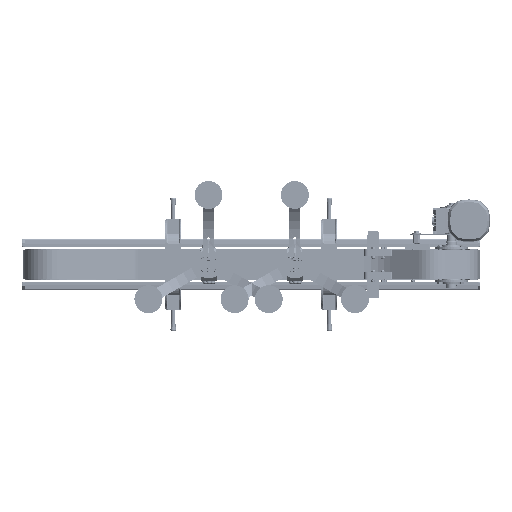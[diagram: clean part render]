
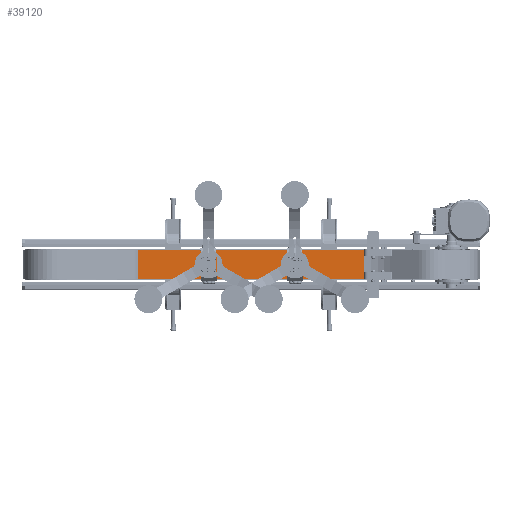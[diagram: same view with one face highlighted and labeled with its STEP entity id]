
A CAD part, front view. The second image highlights one B-rep face of the part: STEP entity #39120.
In plain terms, the highlighted planar face has unit normal (0, -1, 0).
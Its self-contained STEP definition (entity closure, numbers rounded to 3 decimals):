
#233 = CARTESIAN_POINT ( 'NONE',  ( -41.25, -105.8, 0. ) ) ;
#12181 = LINE ( 'NONE', #115090, #105316 ) ;
#19758 = VECTOR ( 'NONE', #141295, 1000. ) ;
#22676 = DIRECTION ( 'NONE',  ( 0., 0., 1. ) ) ;
#23629 = EDGE_CURVE ( 'NONE', #60865, #109645, #98230, .T. ) ;
#25879 = EDGE_CURVE ( 'NONE', #50776, #96678, #119277, .T. ) ;
#29406 = EDGE_CURVE ( 'NONE', #109645, #96678, #12181, .T. ) ;
#34805 = ORIENTED_EDGE ( 'NONE', *, *, #25879, .T. ) ;
#37091 = DIRECTION ( 'NONE',  ( 1., 0., 0. ) ) ;
#38650 = AXIS2_PLACEMENT_3D ( 'NONE', #105309, #39799, #39008 ) ;
#39008 = DIRECTION ( 'NONE',  ( 0., 0., -1. ) ) ;
#39120 = ADVANCED_FACE ( 'NONE', ( #91224 ), #130158, .T. ) ;
#39799 = DIRECTION ( 'NONE',  ( 0., -1., 0. ) ) ;
#50776 = VERTEX_POINT ( 'NONE', #81393 ) ;
#51232 = EDGE_LOOP ( 'NONE', ( #34805, #99177, #76691, #140412 ) ) ;
#60865 = VERTEX_POINT ( 'NONE', #80774 ) ;
#65073 = CARTESIAN_POINT ( 'NONE',  ( 41.25, -105.8, 0. ) ) ;
#76466 = CARTESIAN_POINT ( 'NONE',  ( 41.25, -105.8, 647. ) ) ;
#76691 = ORIENTED_EDGE ( 'NONE', *, *, #23629, .F. ) ;
#77752 = VECTOR ( 'NONE', #118476, 1000. ) ;
#80774 = CARTESIAN_POINT ( 'NONE',  ( -41.25, -105.8, 0. ) ) ;
#81393 = CARTESIAN_POINT ( 'NONE',  ( 41.25, -105.8, 0. ) ) ;
#81963 = CARTESIAN_POINT ( 'NONE',  ( 41.25, -105.8, 0. ) ) ;
#91224 = FACE_OUTER_BOUND ( 'NONE', #51232, .T. ) ;
#96678 = VERTEX_POINT ( 'NONE', #76466 ) ;
#98230 = LINE ( 'NONE', #233, #135901 ) ;
#99177 = ORIENTED_EDGE ( 'NONE', *, *, #29406, .F. ) ;
#105309 = CARTESIAN_POINT ( 'NONE',  ( 41.25, -105.8, 0. ) ) ;
#105316 = VECTOR ( 'NONE', #37091, 1000. ) ;
#109645 = VERTEX_POINT ( 'NONE', #159961 ) ;
#115090 = CARTESIAN_POINT ( 'NONE',  ( 41.25, -105.8, 647. ) ) ;
#118476 = DIRECTION ( 'NONE',  ( 0., 0., 1. ) ) ;
#119277 = LINE ( 'NONE', #81963, #77752 ) ;
#130158 = PLANE ( 'NONE',  #38650 ) ;
#135901 = VECTOR ( 'NONE', #22676, 1000. ) ;
#140412 = ORIENTED_EDGE ( 'NONE', *, *, #156749, .T. ) ;
#141295 = DIRECTION ( 'NONE',  ( 1., 0., 0. ) ) ;
#153741 = LINE ( 'NONE', #65073, #19758 ) ;
#156749 = EDGE_CURVE ( 'NONE', #60865, #50776, #153741, .T. ) ;
#159961 = CARTESIAN_POINT ( 'NONE',  ( -41.25, -105.8, 647. ) ) ;
